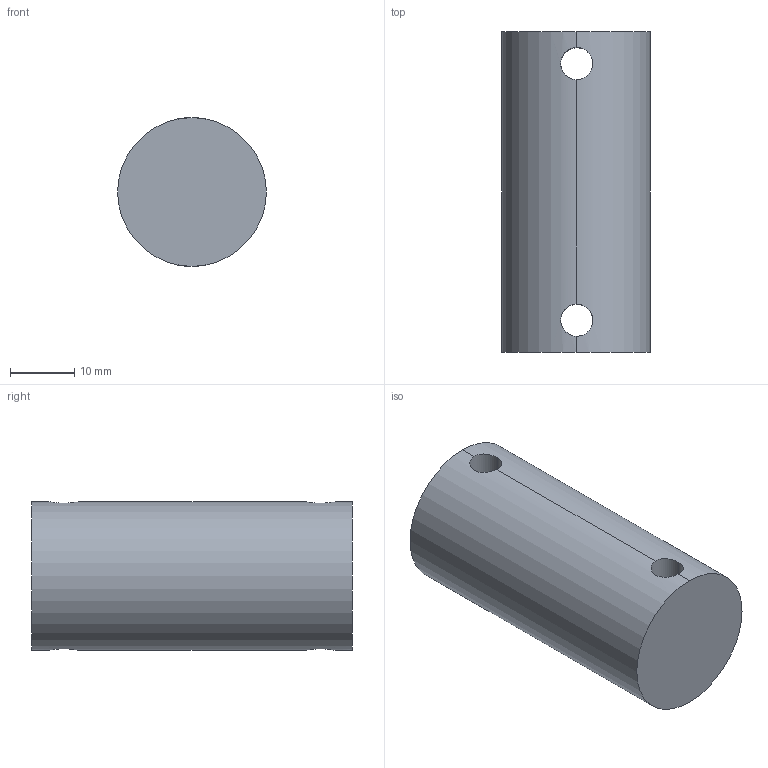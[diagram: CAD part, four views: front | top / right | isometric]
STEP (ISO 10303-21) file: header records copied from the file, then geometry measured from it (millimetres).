
FILE_DESCRIPTION (( 'STEP AP214' ), '1' );
FILE_NAME ('Bottom Part.STEP', '2021-10-04T05:57:43', ( '' ), ( '' ), 'SwSTEP 2.0', 'SolidWorks 2021', '' );
FILE_SCHEMA (( 'AUTOMOTIVE_DESIGN' ));
Length unit declared in the file: millimetre
Products named in the file (1): Bottom Part
Bounding box: 23.2 x 50 x 23.2 mm (x, y, z)
Volume: 20231 mm3; surface area: 5131 mm2
Topology: 1 solids, 1 shells, 8 faces, 30 edges, 20 vertices
Faces by surface type: cylinder 6, plane 2
Entity records: 580 total; most frequent: CARTESIAN_POINT 311, ORIENTED_EDGE 60, DIRECTION 36, EDGE_CURVE 30, VERTEX_POINT 20, B_SPLINE_CURVE_WITH_KNOTS 16, AXIS2_PLACEMENT_3D 13, LINE 10
